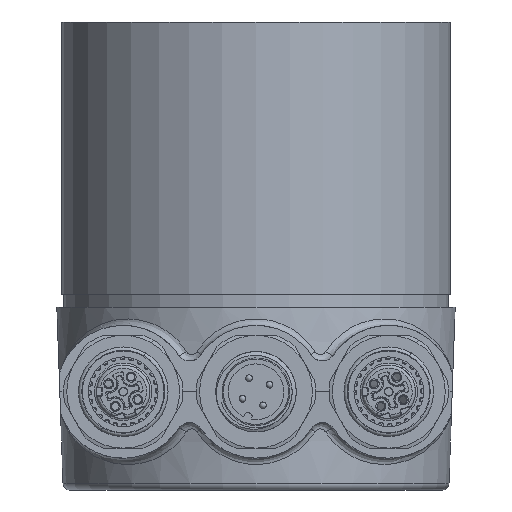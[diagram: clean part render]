
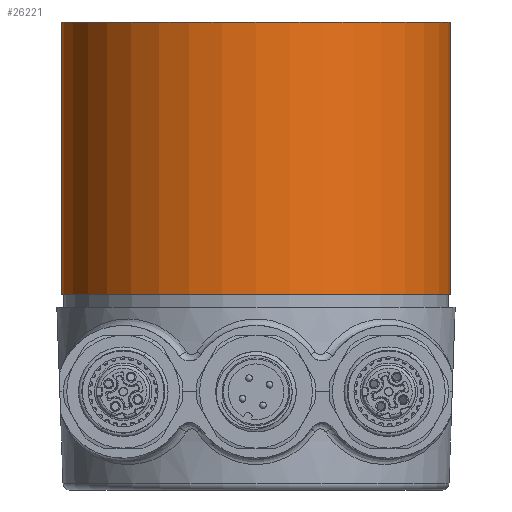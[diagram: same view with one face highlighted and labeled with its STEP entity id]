
A CAD part, front view. The second image highlights one B-rep face of the part: STEP entity #26221.
In plain terms, the highlighted cylindrical face has radius 29.3 mm (diameter 58.6 mm), a partial arc.
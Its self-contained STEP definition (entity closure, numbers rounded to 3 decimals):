
#19828 = VERTEX_POINT ( 'NONE', #43047 ) ;
#25295 = EDGE_CURVE ( 'NONE', #19828, #67166, #45207, .T. ) ;
#25834 = EDGE_CURVE ( 'NONE', #26825, #25858, #45291, .T. ) ;
#25858 = VERTEX_POINT ( 'NONE', #45284 ) ;
#25920 = ORIENTED_EDGE ( 'NONE', *, *, #26001, .F. ) ;
#26001 = EDGE_CURVE ( 'NONE', #67166, #25858, #45346, .T. ) ;
#26085 = ORIENTED_EDGE ( 'NONE', *, *, #25834, .T. ) ;
#26221 = ADVANCED_FACE ( 'NONE', ( #45380 ), #45379, .T. ) ;
#26290 = EDGE_LOOP ( 'NONE', ( #26311, #26817, #26085, #25920 ) ) ;
#26311 = ORIENTED_EDGE ( 'NONE', *, *, #25295, .F. ) ;
#26797 = EDGE_CURVE ( 'NONE', #19828, #26825, #45499, .T. ) ;
#26817 = ORIENTED_EDGE ( 'NONE', *, *, #26797, .T. ) ;
#26825 = VERTEX_POINT ( 'NONE', #45595 ) ;
#43047 = CARTESIAN_POINT ( 'NONE',  ( -29.3, 0., 70.5 ) ) ;
#45204 = DIRECTION ( 'NONE',  ( -1., 0., 0. ) ) ;
#45205 = DIRECTION ( 'NONE',  ( 0., 0., 1. ) ) ;
#45206 = AXIS2_PLACEMENT_3D ( 'NONE', #45212, #45205, #45204 ) ;
#45207 = CIRCLE ( 'NONE', #45206, 29.3 ) ;
#45212 = CARTESIAN_POINT ( 'NONE',  ( 0., 0., 70.5 ) ) ;
#45284 = CARTESIAN_POINT ( 'NONE',  ( 29.3, 0., 29.5 ) ) ;
#45285 = DIRECTION ( 'NONE',  ( -1., 0., 0. ) ) ;
#45287 = DIRECTION ( 'NONE',  ( 0., 0., 1. ) ) ;
#45288 = CARTESIAN_POINT ( 'NONE',  ( 0., 0., 29.5 ) ) ;
#45289 = AXIS2_PLACEMENT_3D ( 'NONE', #45288, #45287, #45285 ) ;
#45291 = CIRCLE ( 'NONE', #45289, 29.3 ) ;
#45343 = DIRECTION ( 'NONE',  ( 0., 0., -1. ) ) ;
#45344 = VECTOR ( 'NONE', #45343, 1000. ) ;
#45345 = CARTESIAN_POINT ( 'NONE',  ( 29.3, 0., 70.5 ) ) ;
#45346 = LINE ( 'NONE', #45345, #45344 ) ;
#45374 = DIRECTION ( 'NONE',  ( 1., 0., 0. ) ) ;
#45375 = DIRECTION ( 'NONE',  ( 0., 0., -1. ) ) ;
#45376 = CARTESIAN_POINT ( 'NONE',  ( 0., 0., 70.5 ) ) ;
#45377 = AXIS2_PLACEMENT_3D ( 'NONE', #45376, #45375, #45374 ) ;
#45379 = CYLINDRICAL_SURFACE ( 'NONE', #45377, 29.3 ) ;
#45380 = FACE_OUTER_BOUND ( 'NONE', #26290, .T. ) ;
#45499 = LINE ( 'NONE', #45509, #45507 ) ;
#45506 = DIRECTION ( 'NONE',  ( 0., 0., -1. ) ) ;
#45507 = VECTOR ( 'NONE', #45506, 1000. ) ;
#45509 = CARTESIAN_POINT ( 'NONE',  ( -29.3, 0., 70.5 ) ) ;
#45595 = CARTESIAN_POINT ( 'NONE',  ( -29.3, 0., 29.5 ) ) ;
#61005 = CARTESIAN_POINT ( 'NONE',  ( 29.3, 0., 70.5 ) ) ;
#67166 = VERTEX_POINT ( 'NONE', #61005 ) ;
